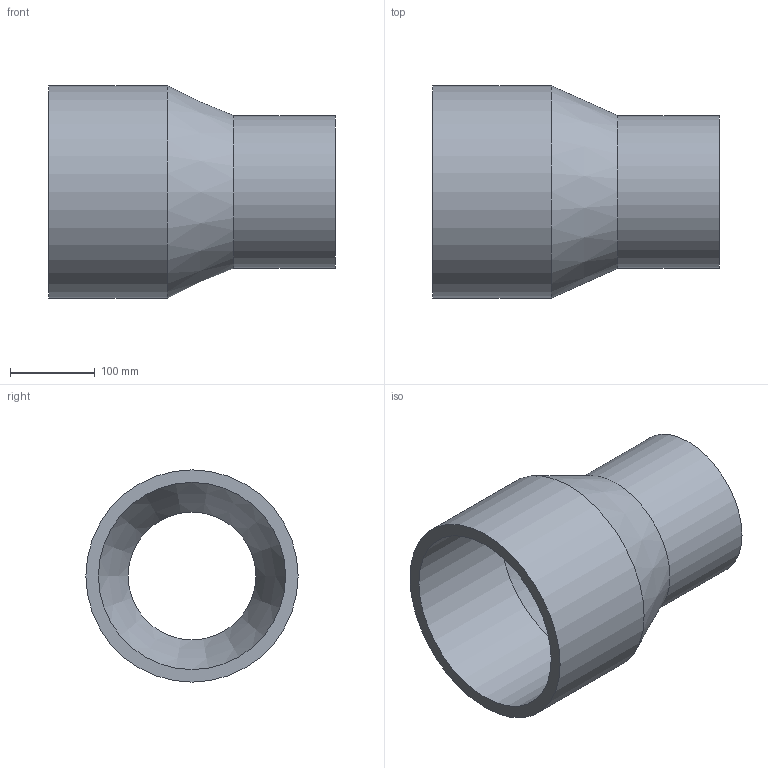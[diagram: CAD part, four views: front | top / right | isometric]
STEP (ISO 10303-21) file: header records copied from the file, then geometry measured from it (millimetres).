
FILE_DESCRIPTION(('Beschreibung'),'1');
FILE_NAME('V:/Ziel/25.91.03.063_SDR_17_PE100_250_180.STP', '2014-09-15T06:33:19',('Author'), ('Organization'), 'KCM Version 1.1.794.0', 'Kubotek KeyCreator', 'Authorization');
FILE_SCHEMA(('CONFIG_CONTROL_DESIGN'));
Length unit declared in the file: millimetre
Bounding box: 338 x 250 x 250 mm (x, y, z)
Volume: 3243379.7 mm3; surface area: 456911.4 mm2
Topology: 1 solids, 1 shells, 8 faces, 22 edges, 24 vertices
Faces by surface type: cylinder 4, cone 2, plane 2
Full cylindrical faces by diameter (mm): 150.4 x1, 180 x1, 220.4 x1, 250 x1
Entity records: 321 total; most frequent: DIRECTION 48, CARTESIAN_POINT 39, ORIENTED_EDGE 28, AXIS2_PLACEMENT_3D 17, EDGE_CURVE 14, VECTOR 14, LINE 14, EDGE_LOOP 10
